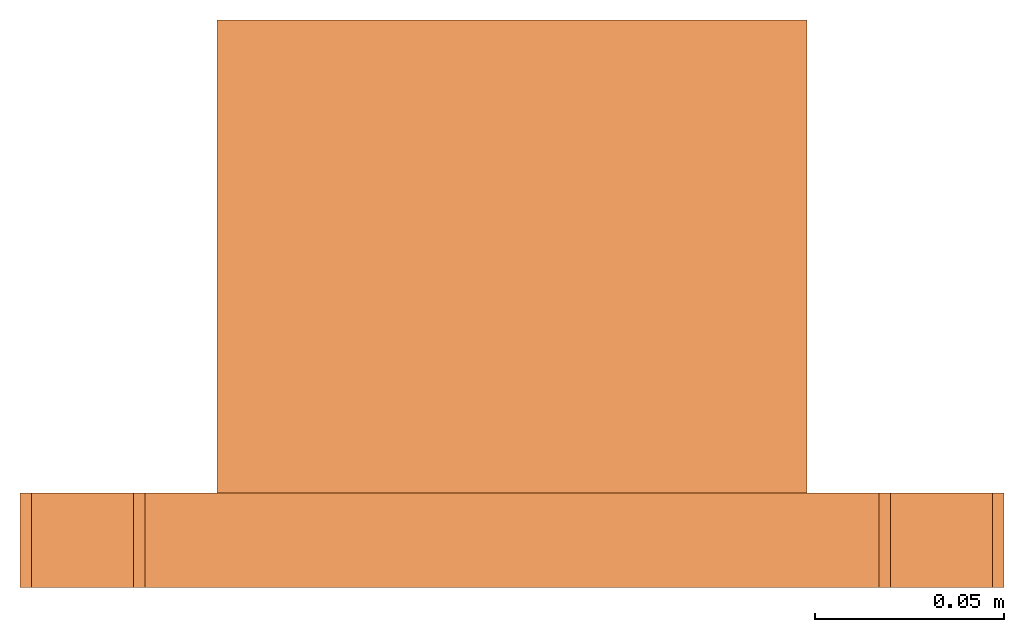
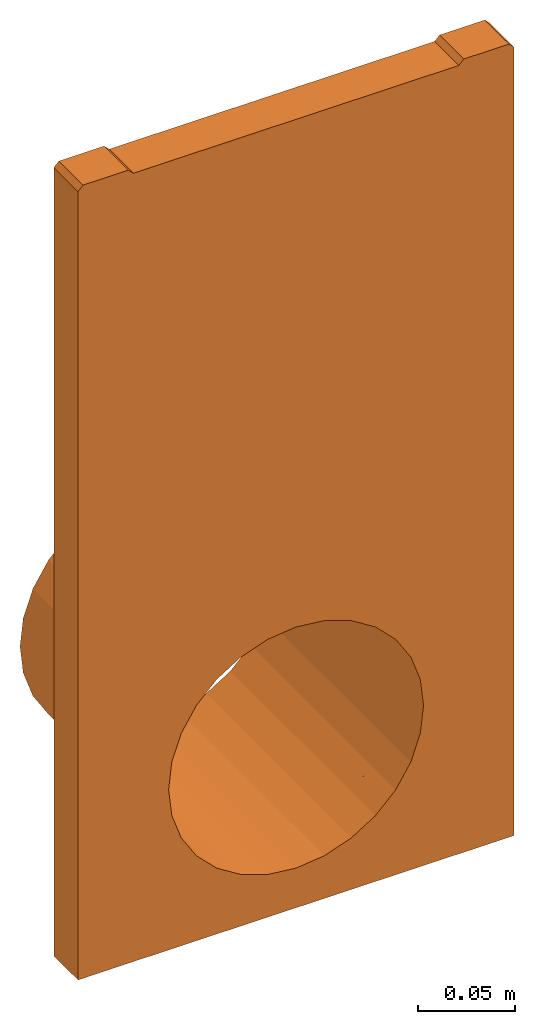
# One storey: 1 proxy.
"""IFC2X3 building model written with IfcOpenShell, lengths in millimetres."""

from ifc_helpers import new_model, entity, si_unit, converted_unit, direction, frame, frame_2d, origin, origin_2d_with_axis, place, context, subcontext, project, spatial, polyline, circle_curve, parameter, trimmed, segment, composite_curve, outline, extrude, source, transform, mapped, material, material_list, element, save


model = new_model("IFC2X3")

# Units and contexts
model_context = context("Model", 3, precision=1e-06, world=origin(), true_north=direction((2.0, 6.12303176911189e-17, 1.0)))
context_of_model = context(None, 3, precision=1e-06, world=origin(), true_north=direction((2.0, 6.12303176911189e-17, 1.0)))
body_context = subcontext(model_context, "Body", "Model", "MODEL_VIEW")
ifc_project = project(units=[si_unit("LENGTHUNIT", "METRE", prefix="MILLI"), si_unit("AREAUNIT", "SQUARE_METRE", prefix="MILLI"), si_unit("VOLUMEUNIT", "CUBIC_METRE", prefix="MILLI"), converted_unit("PLANEANGLEUNIT", "DEGREE", entity("IfcRatioMeasure", 0.0174532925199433), si_unit("PLANEANGLEUNIT", "RADIAN"), dimensions=[0, 0, 0, 0, 0, 0, 0]), si_unit("TIMEUNIT", "SECOND")], contexts=[model_context, context_of_model])

# Site, building, storey
site_placement = place(None, origin())
site = spatial("IfcSite", under=ifc_project, at=site_placement, Name="Default", CompositionType="ELEMENT")
building_placement = place(site_placement, origin())
building = spatial("IfcBuilding", under=site, at=building_placement, CompositionType="ELEMENT")
storey_placement = place(building_placement, frame((0.0, 0.0, -4600.0)))
storey = spatial("IfcBuildingStorey", under=building, at=storey_placement, Name="B.O. Footing", CompositionType="ELEMENT", Elevation=-4600.0)

# Proxy
ifc_material_1 = material(Name="Phenolic Resin")
ifc_material_2 = material(Name="Acetal Resin, Black")
ifc_material_list = material_list([ifc_material_1, ifc_material_2])
shared_shape = source(origin(), body_context, "Body", "SweptSolid", [
    extrude(outline(composite_curve([segment(trimmed(circle_curve(origin_2d_with_axis(), 77.9999330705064), [parameter(180.0)], [parameter(0.0)], True, "PARAMETER"), True, "CONTINUOUS"), segment(trimmed(circle_curve(origin_2d_with_axis(), 77.9999330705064), [parameter(0.0)], [parameter(180.0)], True, "PARAMETER"), True, "CONTINUOUS")], self_intersect=False), holes=[composite_curve([segment(trimmed(circle_curve(origin_2d_with_axis(), 75.9999330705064), [parameter(2.03555499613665e-13)], [parameter(180.0)], True, "PARAMETER"), False, "CONTINUOUS"), segment(trimmed(circle_curve(origin_2d_with_axis(), 75.9999330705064), [parameter(180.0)], [parameter(0.0)], True, "PARAMETER"), False, "CONTINUOUS")], self_intersect=False)]), frame((-1.53257846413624e-09, 25.0, -399.0), z_axis=(0.0, 1.0, 0.0), x_axis=(1.0, 0.0, 0.0)), (0.0, 0.0, 1.0), 125.0),
    extrude(outline(polyline([(-130.0, -398.799999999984), (130.0, -398.799999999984), (130.0, 98.1999999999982), (127.0, 101.199999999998), (100.0, 101.199999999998), (97.0, 98.1999999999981), (-97.0, 98.1999999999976), (-100.0, 101.199999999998), (-127.0, 101.199999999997), (-130.0, 98.1999999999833), (-130.0, -398.799999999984)]), holes=[composite_curve([segment(trimmed(circle_curve(frame_2d((0.0, -297.800066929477), x_axis=(1.0, 0.0)), 75.9999330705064), [parameter(180.0)], [parameter(360.0)], True, "PARAMETER"), False, "CONTINUOUS"), segment(trimmed(circle_curve(frame_2d((0.0, -297.800066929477), x_axis=(1.0, 0.0)), 75.9999330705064), [parameter(0.0)], [parameter(180.0)], True, "PARAMETER"), False, "CONTINUOUS")], self_intersect=False)]), frame((0.0, 0.0, -101.200000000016), z_axis=(0.0, 1.0, 0.0), x_axis=(-1.0, 0.0, 0.0)), (0.0, 0.0, 1.0), 25.0),
])
proxy_placement = place(storey_placement, frame((-71694.9775722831, 28686.5082893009, 300.0)))
element("IfcBuildingElementProxy", 1, at=proxy_placement, inside=storey, material=ifc_material_list, Name="Civil-Drainage-Channel-ACO-RoadDrain 200:33308 - PD200 F 308 Inlet/outlet endcap:33308 - PD200 F 308 Inlet/outlet endcap", ObjectType="33308 - PD200 F 308 Inlet/outlet endcap", CompositionType="ELEMENT", context=body_context, shape_type="MappedRepresentation", body=[
    mapped(shared_shape, transform((0.0, 0.0, 0.0), scale=1.0)),
])

save(model, "model.ifc")
